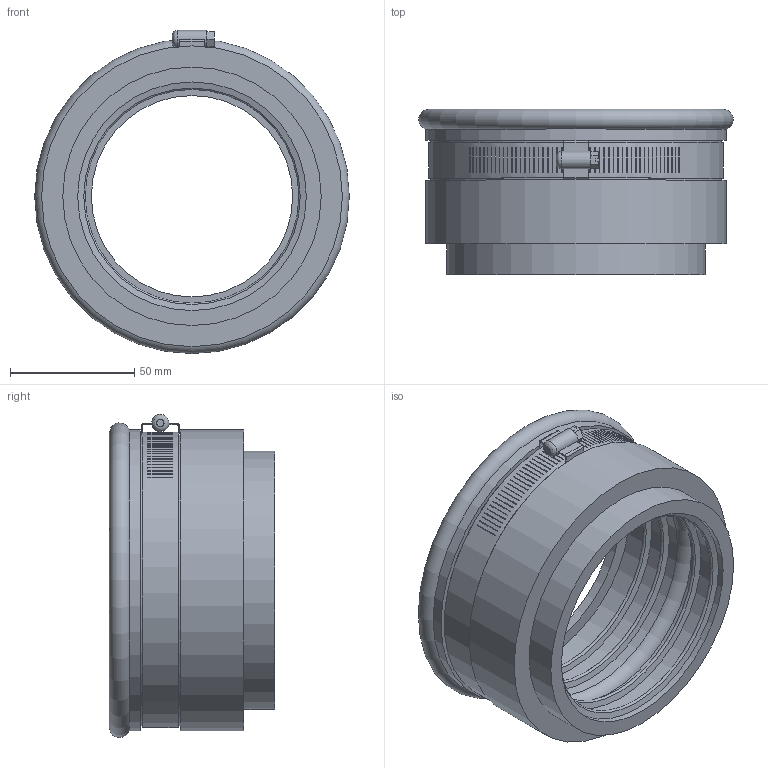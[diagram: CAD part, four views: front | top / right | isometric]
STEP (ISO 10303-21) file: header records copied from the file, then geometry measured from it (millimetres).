
FILE_DESCRIPTION(/* description */ (''),/* implementation_level */ '2;1');
FILE_NAME(/* name */ 'H:\Geberit-Teile\Export\367.009.16.1\stp\367009.stp',/* time_stamp */ '2016-06-20T09:48:09+02:00',/* author */ ('seihe2'),/* organization */ (''),/* preprocessor_version */ 'ST-DEVELOPER v15.2',/* originating_system */ 'Autodesk Inventor 2014',/* authorisation */ '');
FILE_SCHEMA (('AUTOMOTIVE_DESIGN { 1 0 10303 214 3 1 1 }'));
Length unit declared in the file: millimetre
Products named in the file (1): 367009
Bounding box: 126.59 x 66.5 x 130.03 mm (x, y, z)
Volume: 202028 mm3; surface area: 98795.4 mm2
Topology: 2 solids, 3 shells, 287 faces, 654 edges, 429 vertices
Faces by surface type: plane 243, cylinder 26, cone 10, torus 7, bspline 1
Full cylindrical faces by diameter (mm): 5 x1, 7 x1, 81 x1, 92 x6, 104 x1, 110.6 x1, 117 x1, 119 x1, 121 x2
Entity records: 8226 total; most frequent: CARTESIAN_POINT 1376, DIRECTION 1365, ORIENTED_EDGE 1242, EDGE_CURVE 620, AXIS2_PLACEMENT_3D 463, LINE 439, VECTOR 439, VERTEX_POINT 428
